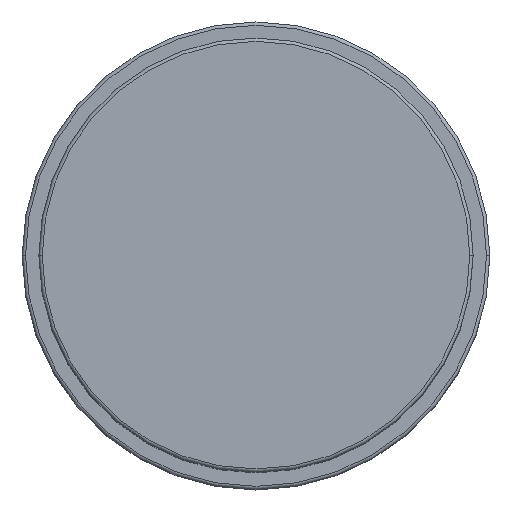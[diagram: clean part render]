
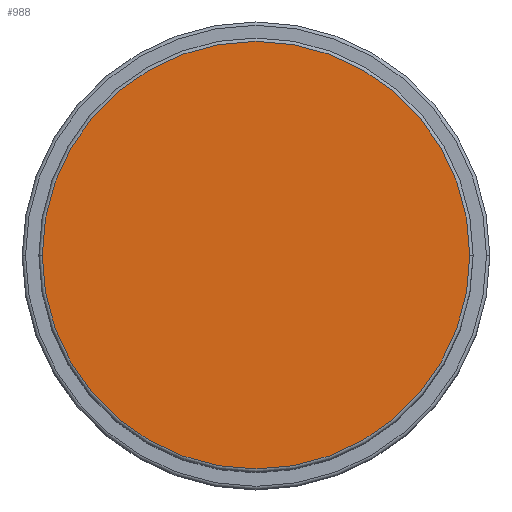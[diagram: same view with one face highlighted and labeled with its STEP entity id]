
A CAD part, top view. The second image highlights one B-rep face of the part: STEP entity #988.
In plain terms, the highlighted planar face has unit normal (0, 0, 1).
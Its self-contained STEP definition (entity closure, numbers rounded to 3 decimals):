
#90 = ORIENTED_EDGE ( 'NONE', *, *, #874, .T. ) ;
#116 = EDGE_CURVE ( 'NONE', #511, #1480, #1794, .T. ) ;
#165 = DIRECTION ( 'NONE',  ( 1., 0., 0. ) ) ;
#190 = CARTESIAN_POINT ( 'NONE',  ( 0., 0., 87. ) ) ;
#222 = CARTESIAN_POINT ( 'NONE',  ( 0., 0., 87. ) ) ;
#283 = FACE_OUTER_BOUND ( 'NONE', #978, .T. ) ;
#292 = DIRECTION ( 'NONE',  ( 0., 0., 1. ) ) ;
#474 = DIRECTION ( 'NONE',  ( 0., 0., 1. ) ) ;
#511 = VERTEX_POINT ( 'NONE', #1593 ) ;
#527 = AXIS2_PLACEMENT_3D ( 'NONE', #190, #474, #1036 ) ;
#698 = PLANE ( 'NONE',  #527 ) ;
#874 = EDGE_CURVE ( 'NONE', #1480, #511, #1085, .T. ) ;
#978 = EDGE_LOOP ( 'NONE', ( #1579, #90 ) ) ;
#988 = ADVANCED_FACE ( 'NONE', ( #283 ), #698, .T. ) ;
#1007 = CARTESIAN_POINT ( 'NONE',  ( 0., 0., 87. ) ) ;
#1036 = DIRECTION ( 'NONE',  ( 1., 0., 0. ) ) ;
#1085 = CIRCLE ( 'NONE', #1185, 32. ) ;
#1121 = CARTESIAN_POINT ( 'NONE',  ( -32., 0., 87. ) ) ;
#1185 = AXIS2_PLACEMENT_3D ( 'NONE', #1007, #292, #165 ) ;
#1310 = DIRECTION ( 'NONE',  ( 0., 0., 1. ) ) ;
#1364 = AXIS2_PLACEMENT_3D ( 'NONE', #222, #1310, #1451 ) ;
#1451 = DIRECTION ( 'NONE',  ( 1., 0., 0. ) ) ;
#1480 = VERTEX_POINT ( 'NONE', #1121 ) ;
#1579 = ORIENTED_EDGE ( 'NONE', *, *, #116, .T. ) ;
#1593 = CARTESIAN_POINT ( 'NONE',  ( 32., 0., 87. ) ) ;
#1794 = CIRCLE ( 'NONE', #1364, 32. ) ;
